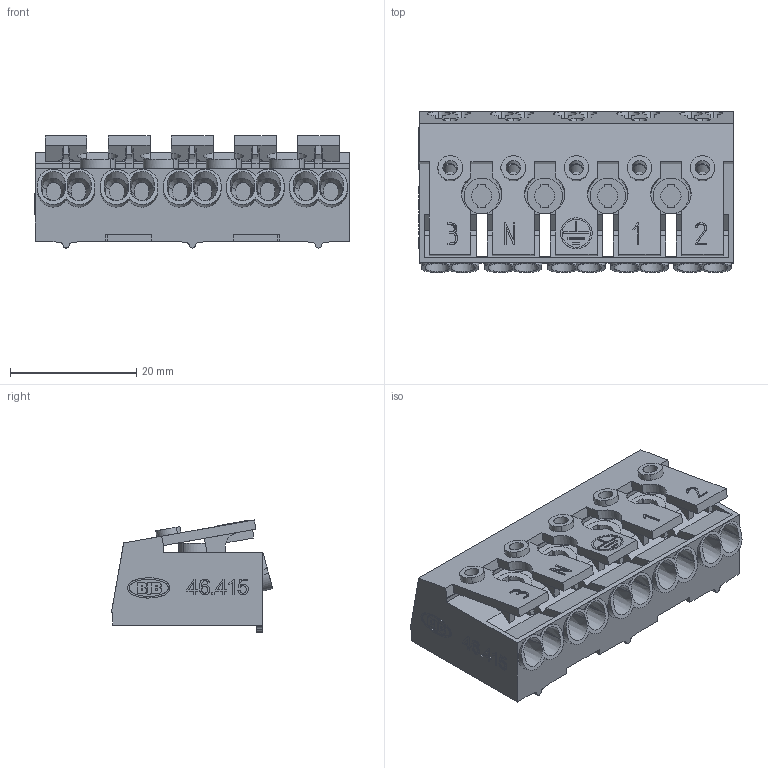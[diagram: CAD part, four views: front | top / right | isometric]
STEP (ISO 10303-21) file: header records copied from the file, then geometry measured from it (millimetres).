
FILE_DESCRIPTION((' '),'1');
FILE_NAME('006YK0HY03.stp','2011-06-17 T08:35:01',(''),(''),'STEP Interface v1.0 by CT CoreTechnologie','3D_Evolution v1.0 by CT CoreTechnologie','');
FILE_SCHEMA(('CONFIG_CONTROL_DESIGN'));
Length unit declared in the file: millimetre
Products named in the file (1): 1
Bounding box: 49.9 x 25.55 x 17.78 mm (x, y, z)
Volume: 11261.5 mm3; surface area: 9112.3 mm2
Topology: 1 solids, 1 shells, 690 faces, 1921 edges, 1272 vertices
Faces by surface type: plane 449, cylinder 187, bspline 54
Entity records: 33288 total; most frequent: CARTESIAN_POINT 9562, ORIENTED_EDGE 3762, DIRECTION 3395, EDGE_CURVE 1881, VECTOR 1345, LINE 1345, VERTEX_POINT 1254, AXIS2_PLACEMENT_3D 1025
